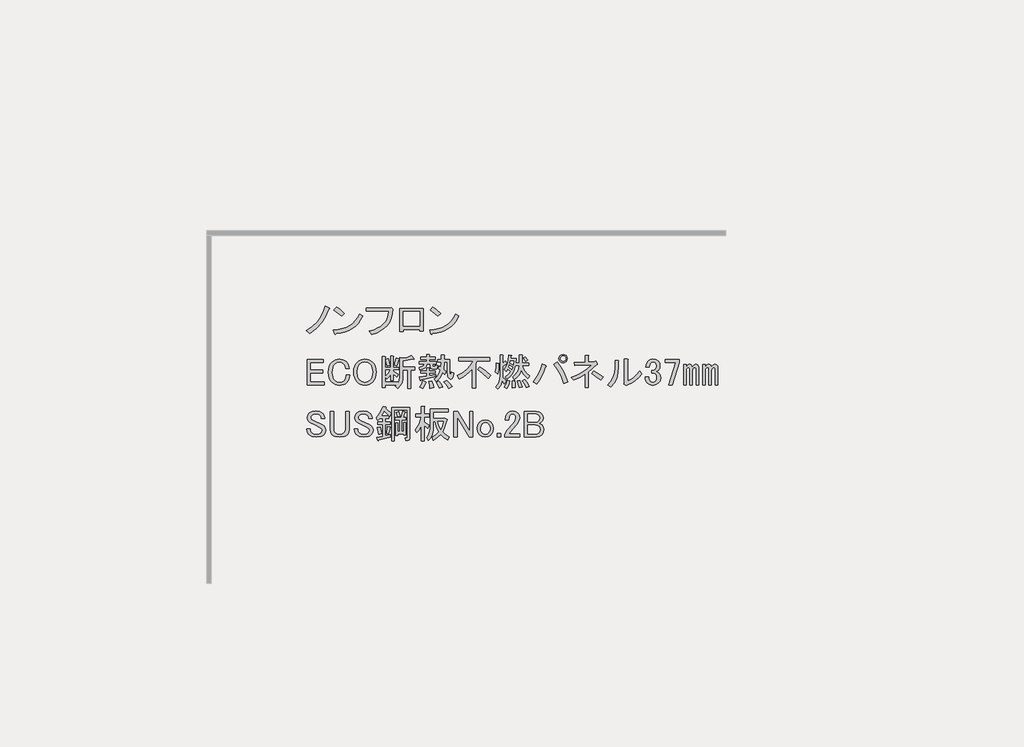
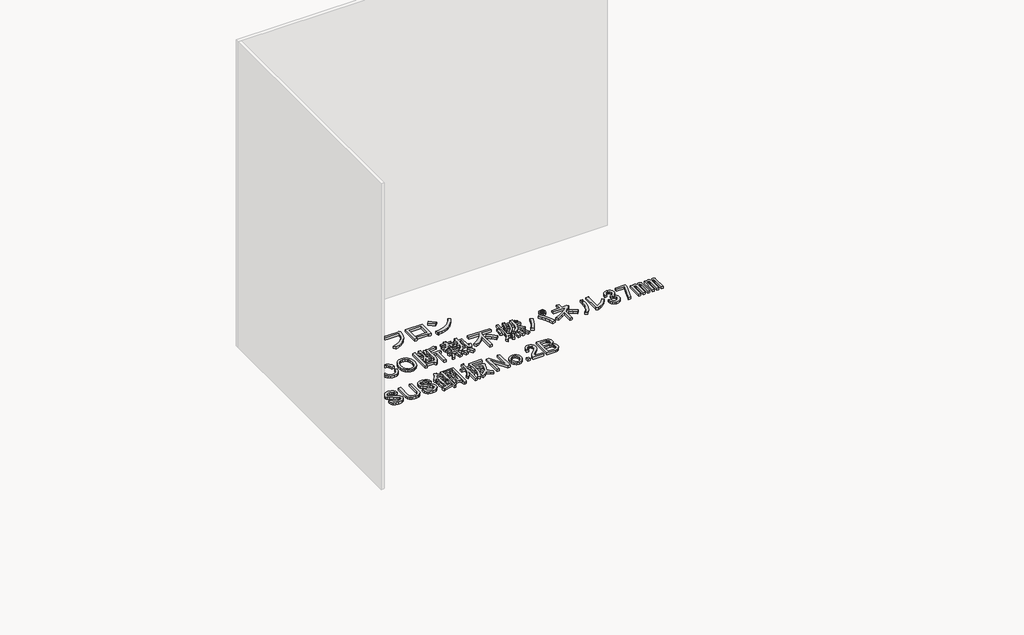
# One storey, part 105 of 117: 1 proxy.
"""IFC4 building model written with IfcOpenShell, lengths in millimetres."""

from ifc_helpers import new_model, si_unit, frame, origin, place, context, project, spatial, polyline, outline, extrude, element, save

model = new_model("IFC4")

# Units and contexts
model_context = context("Model", 3, world=origin())
ifc_project = project(units=[si_unit("LENGTHUNIT", "METRE", prefix="MILLI")], contexts=[model_context])

# Site, building, storey
site = spatial("IfcSite", under=ifc_project)
building = spatial("IfcBuilding", under=site)
storey = spatial("IfcBuildingStorey", under=building, Name="レベル 1", Elevation=500.0)

# Proxy
placement = place(None, origin())
element("IfcBuildingElementProxy", 1, Name="200㎜\u3000MS Pゴシック", ObjectType="200㎜\u3000MS Pゴシック", at=placement, inside=storey, context=model_context, shape_type="SweptSolid", body=[
    extrude(outline(polyline([(40940.1706985, 11396.4503118), (40914.5952502, 11336.6784775), (40886.146156, 11290.7001434), (40844.4782907, 11245.2965385), (40795.3389462, 11207.939142), (40767.7519457, 11229.7788507), (40815.4544673, 11260.2394971), (40855.1107805, 11298.7463519), (40872.4963381, 11322.6694538), (40887.8703435, 11350.7593423), (40901.2327969, 11383.0160173), (40912.5836981, 11419.4394788), (40943.6190736, 11405.6459786), (40946.7800841, 11401.0481452), (40940.1706985, 11396.4503118)])), frame((0.0, 0.0, 500.0), z_axis=(0.0, 0.0, 1.0), x_axis=(1.0, 0.0, 0.0)), (0.0, 0.0, 1.0), 25.0),
    extrude(outline(polyline([(41039.8977052, 11341.2763109), (40981.2753292, 11388.4041033), (41000.8161212, 11412.5427287), (41028.1157571, 11392.7145721), (41061.7374138, 11363.1160196), (41039.8977052, 11341.2763109)])), frame((0.0, 0.0, 500.0), z_axis=(0.0, 0.0, 1.0), x_axis=(1.0, 0.0, 0.0)), (0.0, 0.0, 1.0), 25.0),
    extrude(outline(polyline([(41201.9713328, 11341.2763109), (41185.447869, 11311.534076), (41166.3381239, 11285.5275808), (41144.6420975, 11263.2568252), (41120.3597898, 11244.7218093), (41093.4912008, 11229.922533), (41064.0363306, 11218.8589964), (41031.995179, 11211.5311994), (40997.3677461, 11207.939142), (40991.6204544, 11199.8929336), (40985.8731626, 11205.6402253), (40976.6774958, 11235.5261425), (41012.5082679, 11238.2022252), (41045.2857912, 11244.5062859), (41075.0100658, 11254.4383244), (41101.6810916, 11267.9983409), (41125.2988687, 11285.1863354), (41145.863397, 11306.0023077), (41163.3746766, 11330.446258), (41177.8327074, 11358.5181862), (41201.9713328, 11341.2763109)])), frame((0.0, 0.0, 500.0), z_axis=(0.0, 0.0, 1.0), x_axis=(1.0, 0.0, 0.0)), (0.0, 0.0, 1.0), 25.0),
    extrude(outline(polyline([(41252.7314136, 11226.3304757), (41286.514713, 11236.0110702), (41316.0234641, 11248.3857078), (41341.257667, 11263.4543884), (41362.2173217, 11281.217112), (41378.902428, 11301.6738786), (41391.3129862, 11324.8246882), (41399.4489961, 11350.6695409), (41403.3104577, 11379.2084365), (41230.8917049, 11379.2084365), (41230.8917049, 11404.4965202), (41405.6093744, 11404.4965202), (41421.7017914, 11407.9448953), (41434.3458332, 11396.4503118), (41430.825617, 11359.9550091), (41422.5638851, 11326.9080815), (41409.5606375, 11297.3095289), (41391.8158742, 11271.1593514), (41369.3295952, 11248.457549), (41342.1018005, 11229.2041216), (41310.1324901, 11213.3990692), (41273.421664, 11201.0423919), (41252.7314136, 11226.3304757)])), frame((0.0, 0.0, 500.0), z_axis=(0.0, 0.0, 1.0), x_axis=(1.0, 0.0, 0.0)), (0.0, 0.0, 1.0), 25.0),
    extrude(outline(polyline([(41667.455987, 11227.479934), (41641.0184449, 11227.479934), (41641.0184449, 11240.1239759), (41513.4285679, 11240.1239759), (41513.4285679, 11221.7326423), (41486.9910258, 11221.7326423), (41486.9910258, 11401.0481452), (41667.455987, 11401.0481452), (41667.455987, 11227.479934)]), holes=[polyline([(41513.4285679, 11375.7600614), (41513.4285679, 11265.4120596), (41641.0184449, 11265.4120596), (41641.0184449, 11375.7600614), (41513.4285679, 11375.7600614)])]), frame((0.0, 0.0, 500.0), z_axis=(0.0, 0.0, 1.0), x_axis=(1.0, 0.0, 0.0)), (0.0, 0.0, 1.0), 25.0),
    extrude(outline(polyline([(41943.5099049, 11341.2763109), (41926.9864411, 11311.534076), (41907.876696, 11285.5275808), (41886.1806696, 11263.2568252), (41861.8983619, 11244.7218093), (41835.0297729, 11229.922533), (41805.5749026, 11218.8589964), (41773.5337511, 11211.5311994), (41738.9063182, 11207.939142), (41733.1590264, 11199.8929336), (41727.4117347, 11205.6402253), (41718.2160679, 11235.5261425), (41754.0468399, 11238.2022252), (41786.8243633, 11244.5062859), (41816.5486378, 11254.4383244), (41843.2196637, 11267.9983409), (41866.8374407, 11285.1863354), (41887.4019691, 11306.0023077), (41904.9132486, 11330.446258), (41919.3712795, 11358.5181862), (41943.5099049, 11341.2763109)])), frame((0.0, 0.0, 500.0), z_axis=(0.0, 0.0, 1.0), x_axis=(1.0, 0.0, 0.0)), (0.0, 0.0, 1.0), 25.0),
    extrude(outline(polyline([(41781.4362772, 11341.2763109), (41722.8139013, 11388.4041033), (41742.3546933, 11412.5427287), (41769.6543291, 11392.7145721), (41803.2759859, 11363.1160196), (41781.4362772, 11341.2763109)])), frame((0.0, 0.0, 500.0), z_axis=(0.0, 0.0, 1.0), x_axis=(1.0, 0.0, 0.0)), (0.0, 0.0, 1.0), 25.0),
    extrude(outline(polyline([(40773.4992375, 11007.9448953), (40899.9396562, 11007.9448953), (40899.9396562, 10986.1051866), (40799.9367796, 10986.1051866), (40799.9367796, 10925.183894), (40893.0429061, 10925.183894), (40893.0429061, 10903.3441853), (40799.9367796, 10903.3441853), (40799.9367796, 10833.2272258), (40905.686948, 10833.2272258), (40905.686948, 10811.3875171), (40773.4992375, 10811.3875171), (40773.4992375, 11007.9448953)])), frame((0.0, 0.0, 500.0), z_axis=(0.0, 0.0, 1.0), x_axis=(1.0, 0.0, 0.0)), (0.0, 0.0, 1.0), 25.0),
    extrude(outline(polyline([(40937.7798252, 10909.091477), (40939.5758538, 10933.014579), (40944.9639399, 10954.2077173), (40953.9440832, 10972.6708921), (40966.516284, 10988.4041033), (40991.5170031, 11004.7838848), (41022.8397432, 11010.243812), (41053.5877541, 11005.358614), (41076.8642858, 10990.70302), (41092.6693381, 10967.1391238), (41098.7039944, 10937.8279358), (41071.116994, 10937.8279358), (41066.231796, 10959.0929153), (41056.1740354, 10974.6106031), (41040.9437123, 10984.9557283), (41022.8397432, 10988.4041033), (41003.2989512, 10984.3809991), (40986.0570759, 10972.3116864), (40977.0050914, 10960.6015794), (40970.5393882, 10946.1615089), (40965.3668256, 10909.091477), (40970.5393882, 10872.0214452), (40977.0050914, 10857.5813746), (40986.0570759, 10845.8712677), (41002.7242221, 10834.6640487), (41022.8397432, 10830.9283091), (41043.242629, 10834.0893196), (41058.4729521, 10843.572351), (41070.5422648, 10863.1131429), (41074.5653691, 10889.550685), (41102.1523695, 10889.550685), (41095.8303486, 10854.7795699), (41088.7899162, 10840.6268639), (41079.1632025, 10828.6293924), (41068.3151893, 10820.0802959), (41055.3119417, 10813.9737984), (41022.8397432, 10809.0886004), (40991.5170031, 10814.5485276), (40966.516284, 10830.9283091), (40953.9440832, 10846.5896791), (40944.9639399, 10864.8373305), (40939.5758538, 10885.6712631), (40937.7798252, 10909.091477)])), frame((0.0, 0.0, 500.0), z_axis=(0.0, 0.0, 1.0), x_axis=(1.0, 0.0, 0.0)), (0.0, 0.0, 1.0), 25.0),
    extrude(outline(polyline([(41133.1417667, 10910.2409354), (41134.8659542, 10933.0864201), (41140.0385168, 10953.3456236), (41148.6594544, 10971.0185457), (41160.7287671, 10986.1051866), (41173.4446501, 10996.6658352), (41187.4536738, 11004.2091557), (41202.7558381, 11008.7351479), (41219.3511431, 11010.243812), (41235.946448, 11008.7351479), (41251.2486123, 11004.2091557), (41265.257636, 10996.6658352), (41277.973519, 10986.1051866), (41290.0428317, 10971.0185457), (41298.6637694, 10953.3456236), (41303.836332, 10933.0864201), (41305.5605195, 10910.2409354), (41303.836332, 10887.3954506), (41298.6637694, 10867.1362472), (41290.0428317, 10849.463325), (41277.973519, 10834.3766841), (41265.257636, 10823.8160355), (41251.2486123, 10816.2727151), (41235.946448, 10811.7467228), (41219.3511431, 10810.2380587), (41202.7558381, 10811.7467228), (41187.4536738, 10816.2727151), (41173.4446501, 10823.8160355), (41160.7287671, 10834.3766841), (41148.6594544, 10849.463325), (41140.0385168, 10867.1362472), (41134.8659542, 10887.3954506), (41133.1417667, 10910.2409354)]), holes=[polyline([(41219.3511431, 10988.4041033), (41198.6608927, 10984.0936345), (41180.2695591, 10971.162228), (41171.7204626, 10960.0268502), (41165.6139651, 10946.1615089), (41160.7287671, 10910.2409354), (41165.6139651, 10874.3203619), (41171.7204626, 10860.4550205), (41180.2695591, 10849.3196427), (41198.6608927, 10836.3882363), (41219.3511431, 10832.0777674), (41240.0413934, 10836.3882363), (41258.432727, 10849.3196427), (41266.9818235, 10860.4550205), (41273.088321, 10874.3203619), (41277.973519, 10910.2409354), (41273.088321, 10946.1615089), (41266.9818235, 10960.0268502), (41258.432727, 10971.162228), (41240.0413934, 10984.0936345), (41219.3511431, 10988.4041033)])]), frame((0.0, 0.0, 500.0), z_axis=(0.0, 0.0, 1.0), x_axis=(1.0, 0.0, 0.0)), (0.0, 0.0, 1.0), 25.0),
    extrude(outline(polyline([(41444.3691101, 10964.2654779), (41461.6109854, 11017.1405621), (41482.3012357, 11011.3932704), (41484.0254232, 11008.2322599), (41480.002319, 11005.6459786), (41462.7604437, 10957.3687278), (41444.3691101, 10964.2654779)])), frame((0.0, 0.0, 500.0), z_axis=(0.0, 0.0, 1.0), x_axis=(1.0, 0.0, 0.0)), (0.0, 0.0, 1.0), 25.0),
    extrude(outline(polyline([(41598.3965292, 11012.5427287), (41596.6723417, 11007.9448953), (41589.2008624, 11010.243812), (41512.1871528, 10997.5997701), (41512.1871528, 10948.173061), (41604.143821, 10948.173061), (41604.143821, 10926.3333523), (41573.1084455, 10926.3333523), (41573.1084455, 10786.0994334), (41550.1192785, 10786.0994334), (41550.1192785, 10926.3333523), (41512.1871528, 10926.3333523), (41512.1871528, 10876.9066432), (41509.6008716, 10849.1041193), (41501.8420277, 10824.3189236), (41488.9106212, 10802.551056), (41470.8066522, 10783.8005167), (41453.5647769, 10803.3413086), (41463.9099021, 10812.5369755), (41374.2521506, 10812.5369755), (41374.2521506, 10790.6972668), (41351.2629836, 10790.6972668), (41351.2629836, 11029.784604), (41373.1026922, 11029.784604), (41377.9878902, 11027.4856873), (41374.2521506, 11022.8878539), (41374.2521506, 10947.0236026), (41416.7821096, 10947.0236026), (41416.7821096, 11034.3824374), (41435.1734433, 11034.3824374), (41440.0586413, 11032.0835207), (41436.3229016, 11027.4856873), (41436.3229016, 10947.0236026), (41480.002319, 10947.0236026), (41480.002319, 10928.632269), (41436.3229016, 10928.632269), (41436.3229016, 10919.4366022), (41476.5539439, 10892.9990601), (41462.7604437, 10871.1593514), (41436.3229016, 10897.5968935), (41436.3229016, 10844.7218093), (41416.7821096, 10844.7218093), (41416.7821096, 10892.9990601), (41403.5633386, 10873.1709035), (41389.1951092, 10857.3658512), (41376.5510673, 10875.7571848), (41398.390776, 10899.8958102), (41415.6326513, 10928.632269), (41374.2521506, 10928.632269), (41374.2521506, 10834.3766841), (41471.9561105, 10834.3766841), (41471.9561105, 10820.5831839), (41484.887517, 10844.7218093), (41489.1979858, 10878.0561015), (41489.1979858, 11022.8878539), (41511.0376945, 11017.1405621), (41547.2456326, 11024.6120414), (41577.7062789, 11037.8308125), (41598.3965292, 11012.5427287)])), frame((0.0, 0.0, 500.0), z_axis=(0.0, 0.0, 1.0), x_axis=(1.0, 0.0, 0.0)), (0.0, 0.0, 1.0), 25.0),
    extrude(outline(polyline([(41390.3445675, 10956.2192695), (41377.7005257, 11006.7954369), (41397.2413176, 11013.6921871), (41405.0001615, 10989.5535617), (41409.8853595, 10963.1160196), (41390.3445675, 10956.2192695)])), frame((0.0, 0.0, 500.0), z_axis=(0.0, 0.0, 1.0), x_axis=(1.0, 0.0, 0.0)), (0.0, 0.0, 1.0), 25.0),
    extrude(outline(polyline([(41734.0326148, 10840.1239759), (41744.0903754, 10812.82434), (41748.9755734, 10790.6972668), (41720.2391146, 10784.949975), (41717.6528333, 10806.5023191), (41709.8939894, 10836.6756008), (41734.0326148, 10840.1239759)])), frame((0.0, 0.0, 500.0), z_axis=(0.0, 0.0, 1.0), x_axis=(1.0, 0.0, 0.0)), (0.0, 0.0, 1.0), 25.0),
    extrude(outline(polyline([(41790.356074, 10787.2488917), (41782.022501, 10811.9622463), (41768.5163654, 10833.2272258), (41789.2066157, 10841.2734343), (41806.1611264, 10819.7210902), (41817.9430745, 10796.4445585), (41790.356074, 10787.2488917)])), frame((0.0, 0.0, 500.0), z_axis=(0.0, 0.0, 1.0), x_axis=(1.0, 0.0, 0.0)), (0.0, 0.0, 1.0), 25.0),
    extrude(outline(polyline([(41689.2037391, 10835.5261425), (41692.6521141, 10830.6409445), (41686.9048224, 10827.479934), (41677.1344264, 10801.9044857), (41666.214572, 10782.6510583), (41643.225405, 10794.1456418), (41655.8694469, 10817.709538), (41666.214572, 10844.7218093), (41689.2037391, 10835.5261425)])), frame((0.0, 0.0, 500.0), z_axis=(0.0, 0.0, 1.0), x_axis=(1.0, 0.0, 0.0)), (0.0, 0.0, 1.0), 25.0),
    extrude(outline(polyline([(41721.3885729, 10972.3116864), (41696.1004892, 10972.3116864), (41691.5026558, 10954.8542877), (41681.1575306, 10941.5636755), (41665.0651137, 10932.4398498), (41643.225405, 10927.4828107), (41638.6275716, 10947.0236026), (41663.9156553, 10955.6445403), (41671.3871346, 10962.9723373), (41675.4102388, 10972.3116864), (41639.7770299, 10972.3116864), (41639.7770299, 10990.70302), (41693.8015725, 10990.70302), (41693.8015725, 11007.9448953), (41650.1221551, 11007.9448953), (41650.1221551, 11026.3362289), (41693.8015725, 11026.3362289), (41693.8015725, 11044.7275626), (41715.6412812, 11044.7275626), (41720.5264792, 11042.4286459), (41716.7907395, 11037.8308125), (41716.7907395, 11026.3362289), (41759.3206985, 11026.3362289), (41759.3206985, 11007.9448953), (41716.7907395, 11007.9448953), (41716.7907395, 10990.70302), (41769.6658237, 10990.70302), (41769.6658237, 10972.3116864), (41740.9293649, 10972.3116864), (41740.9293649, 10959.6676445), (41742.3661878, 10954.4950819), (41746.6766567, 10952.7708944), (41757.0217818, 10952.7708944), (41760.7575215, 10955.9319049), (41760.4701569, 10965.4149363), (41780.0109489, 10963.1160196), (41777.137303, 10941.5636755), (41771.8210581, 10936.1755894), (41763.9185319, 10934.3795608), (41739.7799066, 10934.3795608), (41725.9864063, 10939.2647588), (41721.3885729, 10953.9203528), (41721.3885729, 10972.3116864)])), frame((0.0, 0.0, 500.0), z_axis=(0.0, 0.0, 1.0), x_axis=(1.0, 0.0, 0.0)), (0.0, 0.0, 1.0), 25.0),
    extrude(outline(polyline([(41852.4268251, 10989.5535617), (41830.5871164, 10989.5535617), (41825.989283, 10932.0806441), (41845.5300749, 10913.6893104), (41835.1849498, 10891.8496017), (41819.0925328, 10907.9420187), (41799.8391054, 10870.2972576), (41769.6658237, 10837.8250592), (41752.4239484, 10858.5153095), (41767.5105893, 10870.4409399), (41780.585678, 10885.5275808), (41791.6492147, 10903.7752321), (41800.7011992, 10925.183894), (41783.4593239, 10940.1268525), (41791.5055324, 10957.3687278), (41805.2990326, 10947.0236026), (41807.5979493, 10989.5535617), (41780.0109489, 10989.5535617), (41780.0109489, 11007.9448953), (41807.5979493, 11007.9448953), (41807.5979493, 11042.4286459), (41829.437658, 11042.4286459), (41834.322856, 11040.1297292), (41830.5871164, 11035.5318957), (41830.5871164, 11007.9448953), (41871.967617, 11007.9448953), (41871.967617, 10911.3903937), (41875.4159921, 10887.2517683), (41878.6488437, 10885.2402162), (41881.4506484, 10888.4012267), (41885.7611173, 10910.2409354), (41905.3019092, 10903.3441853), (41900.775917, 10876.5474374), (41892.945232, 10860.5268616), (41881.8098542, 10855.2824579), (41867.3697836, 10860.8142262), (41860.8322393, 10868.1420232), (41856.1625647, 10879.780289), (41852.4268251, 10915.9882271), (41852.4268251, 10989.5535617)])), frame((0.0, 0.0, 500.0), z_axis=(0.0, 0.0, 1.0), x_axis=(1.0, 0.0, 0.0)), (0.0, 0.0, 1.0), 25.0),
    extrude(outline(polyline([(41651.2716134, 10850.4691011), (41649.2600613, 10845.5839031), (41645.5243217, 10847.020726), (41639.7770299, 10871.1593514), (41694.9510308, 10879.2055599), (41694.9510308, 10902.1947269), (41651.2716134, 10902.1947269), (41651.2716134, 10920.5860605), (41694.9510308, 10920.5860605), (41694.9510308, 10943.5752276), (41713.3423645, 10943.5752276), (41718.2275625, 10941.2763109), (41714.4918228, 10936.6784775), (41714.4918228, 10920.5860605), (41759.3206985, 10920.5860605), (41759.3206985, 10902.1947269), (41714.4918228, 10902.1947269), (41714.4918228, 10882.6539349), (41765.0679903, 10891.8496017), (41765.0679903, 10875.7571848), (41651.2716134, 10850.4691011)])), frame((0.0, 0.0, 500.0), z_axis=(0.0, 0.0, 1.0), x_axis=(1.0, 0.0, 0.0)), (0.0, 0.0, 1.0), 25.0),
    extrude(outline(polyline([(41848.97845, 10845.8712677), (41873.6918046, 10824.6062881), (41892.6578674, 10799.8929336), (41866.2203253, 10784.949975), (41846.9668979, 10814.5485276), (41828.2881997, 10834.3766841), (41848.97845, 10845.8712677)])), frame((0.0, 0.0, 500.0), z_axis=(0.0, 0.0, 1.0), x_axis=(1.0, 0.0, 0.0)), (0.0, 0.0, 1.0), 25.0),
    extrude(outline(polyline([(42167.3784135, 10861.9636846), (42128.2968295, 10900.1831748), (42086.9163289, 10929.7817274), (42103.0087458, 10950.4719777), (42146.6881632, 10922.3102481), (42188.0686638, 10883.8033933), (42167.3784135, 10861.9636846)])), frame((0.0, 0.0, 500.0), z_axis=(0.0, 0.0, 1.0), x_axis=(1.0, 0.0, 0.0)), (0.0, 0.0, 1.0), 25.0),
    extrude(outline(polyline([(41940.9351182, 11022.8878539), (42182.3213721, 11022.8878539), (42182.3213721, 10997.5997701), (42082.3184955, 10997.5997701), (42071.9733703, 10973.4611447), (42071.9733703, 10787.2488917), (42045.5358282, 10787.2488917), (42045.5358282, 10934.3795608), (42024.7018956, 10911.1030291), (42001.2816816, 10890.7001434), (41975.2751864, 10873.1709035), (41946.6824099, 10858.5153095), (41930.589993, 10884.9528516), (41970.174465, 10905.3557374), (42003.8679629, 10930.9311857), (42031.6704868, 10961.6791966), (42053.5820367, 10997.5997701), (41940.9351182, 10997.5997701), (41940.9351182, 11022.8878539)])), frame((0.0, 0.0, 500.0), z_axis=(0.0, 0.0, 1.0), x_axis=(1.0, 0.0, 0.0)), (0.0, 0.0, 1.0), 25.0),
    extrude(outline(polyline([(42354.7401249, 10788.3983501), (42355.3148541, 10815.4106213), (42352.4412082, 10843.572351), (42371.9820002, 10844.7218093), (42378.3040211, 10818.5716318), (42378.8787503, 10790.6972668), (42354.7401249, 10788.3983501)])), frame((0.0, 0.0, 500.0), z_axis=(0.0, 0.0, 1.0), x_axis=(1.0, 0.0, 0.0)), (0.0, 0.0, 1.0), 25.0),
    extrude(outline(polyline([(42335.1993329, 10840.1239759), (42326.5783953, 10809.6633296), (42312.2101659, 10782.6510583), (42292.6693739, 10795.2951002), (42306.7502387, 10820.0084547), (42316.8079993, 10848.1701844), (42335.1993329, 10840.1239759)])), frame((0.0, 0.0, 500.0), z_axis=(0.0, 0.0, 1.0), x_axis=(1.0, 0.0, 0.0)), (0.0, 0.0, 1.0), 25.0),
    extrude(outline(polyline([(42250.1394149, 10978.0589781), (42254.7372483, 10975.7600614), (42250.1394149, 10971.162228), (42248.9899565, 10931.5059149), (42243.2426647, 10897.5968935), (42224.8513311, 10910.2409354), (42230.5986229, 10944.7246859), (42231.7480812, 10981.5073532), (42250.1394149, 10978.0589781)])), frame((0.0, 0.0, 500.0), z_axis=(0.0, 0.0, 1.0), x_axis=(1.0, 0.0, 0.0)), (0.0, 0.0, 1.0), 25.0),
    extrude(outline(polyline([(42301.8650407, 10996.4503118), (42311.0607075, 10979.2084365), (42312.4975305, 10973.1737801), (42307.6123325, 10973.4611447), (42281.1747904, 10952.7708944), (42281.1747904, 10868.8604347), (42294.9682906, 10856.5037574), (42306.4628741, 10840.1239759), (42293.8188322, 10819.4337256), (42275.4274986, 10844.7218093), (42263.6455505, 10808.8012358), (42242.0932064, 10779.2026832), (42227.1502478, 10797.5940169), (42242.2368887, 10816.3445562), (42253.0130607, 10836.9629654), (42259.478764, 10859.4492444), (42261.6339984, 10883.8033933), (42261.6339984, 11041.2791875), (42280.025332, 11041.2791875), (42284.91053, 11038.9802708), (42281.1747904, 11034.3824374), (42281.1747904, 10975.7600614), (42301.8650407, 10996.4503118)])), frame((0.0, 0.0, 500.0), z_axis=(0.0, 0.0, 1.0), x_axis=(1.0, 0.0, 0.0)), (0.0, 0.0, 1.0), 25.0),
    extrude(outline(polyline([(42452.4440848, 11027.4856873), (42474.2837935, 11003.3470619), (42457.0419182, 10991.8524784), (42450.4325327, 11003.3470619), (42437.5011262, 11017.1405621), (42452.4440848, 11027.4856873)])), frame((0.0, 0.0, 500.0), z_axis=(0.0, 0.0, 1.0), x_axis=(1.0, 0.0, 0.0)), (0.0, 0.0, 1.0), 25.0),
    extrude(outline(polyline([(42462.78921, 10790.6972668), (42449.5704389, 10818.8589964), (42432.9032928, 10843.572351), (42451.2946265, 10851.6185594), (42470.2606893, 10828.6293924), (42485.778377, 10801.0423919), (42462.78921, 10790.6972668)])), frame((0.0, 0.0, 500.0), z_axis=(0.0, 0.0, 1.0), x_axis=(1.0, 0.0, 0.0)), (0.0, 0.0, 1.0), 25.0),
    extrude(outline(polyline([(42413.3625008, 10845.8712677), (42431.7538345, 10796.4445585), (42407.6152091, 10791.8467251), (42393.8217089, 10842.4228926), (42413.3625008, 10845.8712677)])), frame((0.0, 0.0, 500.0), z_axis=(0.0, 0.0, 1.0), x_axis=(1.0, 0.0, 0.0)), (0.0, 0.0, 1.0), 25.0),
    extrude(outline(polyline([(42474.2837935, 10860.8142262), (42443.5357826, 10891.2748726), (42422.5581677, 10925.183894), (42414.1527535, 10903.0568207), (42402.7300111, 10883.8033933), (42388.2899405, 10867.4236118), (42370.8325418, 10853.9174761), (42357.0390416, 10872.3088098), (42377.8729742, 10891.2030314), (42393.2469797, 10912.2524875), (42403.161058, 10935.457178), (42407.6152091, 10960.8171029), (42378.8787503, 10960.8171029), (42370.904383, 10930.2127742), (42357.3264062, 10902.7694561), (42338.1448199, 10878.4871484), (42313.3596242, 10857.3658512), (42300.7155823, 10873.4582681), (42326.5783953, 10895.0106122), (42342.096083, 10915.9882271), (42320.2563743, 10935.5290191), (42306.4628741, 10914.8387688), (42292.6693739, 10929.7817274), (42305.0978923, 10948.8196313), (42314.7964472, 10973.7485093), (42321.7650384, 11004.5683614), (42326.0036661, 11041.2791875), (42346.6939164, 11038.9802708), (42350.1422915, 11036.3939895), (42344.3949997, 11033.232979), (42342.096083, 11014.8416454), (42385.7755004, 11014.8416454), (42382.3271253, 10979.2084365), (42407.6152091, 10979.2084365), (42407.6152091, 11041.2791875), (42429.4549178, 11041.2791875), (42434.3401158, 11038.9802708), (42430.6043761, 11034.3824374), (42430.6043761, 10979.2084365), (42480.0310853, 10979.2084365), (42480.0310853, 10960.8171029), (42430.6043761, 10960.8171029), (42437.1419205, 10939.0492353), (42448.7083452, 10918.5745084), (42465.3036501, 10899.3929222), (42486.9278354, 10881.5044766), (42474.2837935, 10860.8142262)]), holes=[polyline([(42350.1422915, 10930.9311857), (42357.0390416, 10950.4719777), (42331.7509579, 10966.5643946), (42326.0036661, 10949.3225193), (42350.1422915, 10930.9311857)]), polyline([(42339.7971663, 10996.4503118), (42336.3487913, 10980.3578948), (42361.636875, 10966.5643946), (42366.2347084, 10996.4503118), (42339.7971663, 10996.4503118)])]), frame((0.0, 0.0, 500.0), z_axis=(0.0, 0.0, 1.0), x_axis=(1.0, 0.0, 0.0)), (0.0, 0.0, 1.0), 25.0),
    extrude(outline(polyline([(42699.5776305, 10987.254645), (42726.230696, 10950.5438188), (42748.7169751, 10912.8272167), (42767.0364675, 10874.1048384), (42781.1891735, 10834.3766841), (42750.153798, 10824.031559), (42734.7079514, 10867.1362472), (42717.1068704, 10905.643102), (42697.350555, 10939.5521234), (42675.4390051, 10968.8633113), (42699.5776305, 10987.254645)])), frame((0.0, 0.0, 500.0), z_axis=(0.0, 0.0, 1.0), x_axis=(1.0, 0.0, 0.0)), (0.0, 0.0, 1.0), 25.0),
    extrude(outline(polyline([(42612.2187958, 10960.8171029), (42616.2419, 10955.3571757), (42609.919879, 10950.4719777), (42597.9942486, 10915.0542922), (42582.9076078, 10881.217112), (42564.6599564, 10848.960437), (42543.2512946, 10818.2842672), (42516.8137525, 10835.5261425), (42540.018443, 10866.9925649), (42559.056347, 10900.4705394), (42573.9274644, 10935.960066), (42584.6317953, 10973.4611447), (42612.2187958, 10960.8171029)])), frame((0.0, 0.0, 500.0), z_axis=(0.0, 0.0, 1.0), x_axis=(1.0, 0.0, 0.0)), (0.0, 0.0, 1.0), 25.0),
    extrude(outline(polyline([(42745.5559646, 10981.5073532), (42732.9119227, 10983.8062699), (42722.5667975, 10990.70302), (42715.6700474, 11001.0481452), (42713.3711307, 11013.6921871), (42715.6700474, 11026.3362289), (42722.5667975, 11036.6813541), (42732.9119227, 11043.5781042), (42745.5559646, 11045.8770209), (42758.2000065, 11043.5781042), (42768.5451316, 11036.6813541), (42775.4418817, 11026.3362289), (42777.7407984, 11013.6921871), (42775.4418817, 11001.0481452), (42768.5451316, 10990.70302), (42758.2000065, 10983.8062699), (42745.5559646, 10981.5073532)]), holes=[polyline([(42745.5559646, 10993.0019367), (42753.8895376, 10994.4387597), (42760.4989232, 10998.7492285), (42764.809392, 11005.358614), (42766.2462149, 11013.6921871), (42764.809392, 11022.0257601), (42760.4989232, 11028.6351456), (42753.8895376, 11032.9456145), (42745.5559646, 11034.3824374), (42737.2223915, 11032.9456145), (42730.613006, 11028.6351456), (42726.3025372, 11022.0257601), (42724.8657143, 11013.6921871), (42726.3025372, 11005.358614), (42730.613006, 10998.7492285), (42737.2223915, 10994.4387597), (42745.5559646, 10993.0019367)])]), frame((0.0, 0.0, 500.0), z_axis=(0.0, 0.0, 1.0), x_axis=(1.0, 0.0, 0.0)), (0.0, 0.0, 1.0), 25.0),
    extrude(outline(polyline([(42989.2411352, 10991.8524784), (42996.1378853, 10994.1513951), (43008.7819272, 10976.9095198), (43009.9313856, 10970.8748634), (43004.1840938, 10968.8633113), (42940.9638844, 10912.5398521), (42940.9638844, 10791.8467251), (42914.5263423, 10791.8467251), (42914.5263423, 10894.1485184), (42874.2953, 10870.0098931), (42829.4664243, 10848.1701844), (42809.9256323, 10868.8604347), (42855.4729195, 10888.3293855), (42896.7097379, 10911.1030291), (42933.6360874, 10937.1813655), (42966.2519682, 10966.5643946), (42836.3631744, 10960.8171029), (42832.9147993, 10986.1051866), (42914.5263423, 10988.4041033), (42914.5263423, 11040.1297292), (42937.5155094, 11040.1297292), (42943.5501657, 11036.6813541), (42940.9638844, 11030.9340623), (42940.9638844, 10989.5535617), (42989.2411352, 10991.8524784)])), frame((0.0, 0.0, 500.0), z_axis=(0.0, 0.0, 1.0), x_axis=(1.0, 0.0, 0.0)), (0.0, 0.0, 1.0), 25.0),
    extrude(outline(polyline([(43035.2194693, 10848.1701844), (42998.1494375, 10877.4813723), (42965.1025098, 10898.7463519), (42982.3443851, 10920.5860605), (43021.1386045, 10897.3095289), (43054.7602613, 10871.1593514), (43035.2194693, 10848.1701844)])), frame((0.0, 0.0, 500.0), z_axis=(0.0, 0.0, 1.0), x_axis=(1.0, 0.0, 0.0)), (0.0, 0.0, 1.0), 25.0),
    extrude(outline(polyline([(43242.2139293, 10841.2734343), (43266.9991251, 10853.4864292), (43290.7785447, 10870.5846222), (43313.5521883, 10892.5680132), (43335.3200559, 10919.4366022), (43351.4124728, 10897.5968935), (43328.1359412, 10869.7943696), (43301.9857636, 10846.1586322), (43272.9619403, 10826.6896814), (43241.064471, 10811.3875171), (43231.8688042, 10806.7896837), (43213.4774705, 10820.5831839), (43215.7763872, 10826.3304757), (43215.7763872, 11011.3932704), (43239.9150126, 11011.3932704), (43245.6623044, 11007.9448953), (43242.2139293, 11002.1976035), (43242.2139293, 10841.2734343)])), frame((0.0, 0.0, 500.0), z_axis=(0.0, 0.0, 1.0), x_axis=(1.0, 0.0, 0.0)), (0.0, 0.0, 1.0), 25.0),
    extrude(outline(polyline([(43088.1865102, 10810.2380587), (43113.3309116, 10839.4774056), (43131.2911984, 10872.0214452), (43142.0673704, 10907.8701775), (43145.6594278, 10947.0236026), (43145.6594278, 10998.7492285), (43169.7980532, 10998.7492285), (43175.5453449, 10995.3008534), (43172.0969699, 10989.5535617), (43172.0969699, 10948.173061), (43168.2893891, 10902.4102504), (43156.8666467, 10861.67632), (43137.8287427, 10825.9712699), (43111.1756772, 10795.2951002), (43088.1865102, 10810.2380587)])), frame((0.0, 0.0, 500.0), z_axis=(0.0, 0.0, 1.0), x_axis=(1.0, 0.0, 0.0)), (0.0, 0.0, 1.0), 25.0),
    extrude(outline(polyline([(43383.5973066, 10951.621436), (43387.9077755, 10975.7600614), (43400.8391819, 10995.3008534), (43417.506328, 11006.5080724), (43437.6218492, 11010.243812), (43460.3236516, 11006.5080724), (43477.8528915, 10995.3008534), (43488.1980167, 10979.2084365), (43491.6463917, 10958.5181862), (43488.7727459, 10938.402665), (43480.1518082, 10924.0344356), (43471.8182352, 10917.7124147), (43462.9099329, 10914.8387688), (43482.4507249, 10903.3441853), (43492.7958501, 10887.2517683), (43496.2442251, 10866.561518), (43492.2211209, 10843.572351), (43480.1518082, 10825.1810173), (43460.8983808, 10813.1117046), (43435.3229325, 10809.0886004), (43413.1958592, 10813.1117046), (43395.0918902, 10825.1810173), (43383.0225775, 10842.7102572), (43378.9994732, 10863.1131429), (43378.9994732, 10872.3088098), (43405.4370153, 10872.3088098), (43405.4370153, 10864.2626013), (43408.0232966, 10850.4691011), (43415.7821405, 10838.9745175), (43424.6904427, 10832.9398612), (43435.3229325, 10830.9283091), (43448.8290681, 10833.2272258), (43459.4615579, 10840.1239759), (43466.358308, 10851.905924), (43468.6572247, 10868.8604347), (43466.358308, 10883.2286641), (43459.4615579, 10894.1485184), (43449.6911619, 10901.0452686), (43438.7713075, 10903.3441853), (43429.5756407, 10903.3441853), (43429.5756407, 10922.8849772), (43436.4723908, 10922.8849772), (43446.5301514, 10925.183894), (43456.0131828, 10932.0806441), (43462.9099329, 10943.287863), (43465.2088496, 10958.5181862), (43462.9099329, 10972.0243218), (43456.0131828, 10982.6568116), (43447.9669744, 10987.8293741), (43437.6218492, 10989.5535617), (43427.8514532, 10987.5420095), (43419.2305156, 10981.5073532), (43412.0464009, 10969.4380405), (43408.8853904, 10951.621436), (43383.5973066, 10951.621436)])), frame((0.0, 0.0, 500.0), z_axis=(0.0, 0.0, 1.0), x_axis=(1.0, 0.0, 0.0)), (0.0, 0.0, 1.0), 25.0),
    extrude(outline(polyline([(43530.7279757, 11007.9448953), (43639.9265191, 11007.9448953), (43639.9265191, 10982.6568116), (43584.7525182, 10811.3875171), (43559.4644345, 10811.3875171), (43614.6384354, 10986.1051866), (43530.7279757, 10986.1051866), (43530.7279757, 11007.9448953)])), frame((0.0, 0.0, 500.0), z_axis=(0.0, 0.0, 1.0), x_axis=(1.0, 0.0, 0.0)), (0.0, 0.0, 1.0), 25.0),
    extrude(outline(polyline([(43692.8016033, 10810.2380587), (43673.2608114, 10810.2380587), (43673.2608114, 10967.713853), (43692.8016033, 10967.713853), (43692.8016033, 10950.4719777), (43704.870916, 10965.9896654), (43718.0896871, 10971.162228), (43727.2853539, 10969.7254051), (43734.182104, 10965.4149363), (43741.0788541, 10951.621436), (43754.0102606, 10966.27703), (43767.5163962, 10971.162228), (43775.8499693, 10969.7254051), (43782.4593548, 10965.4149363), (43787.6319174, 10956.7939986), (43789.3561049, 10944.7246859), (43789.3561049, 10810.2380587), (43769.8153129, 10810.2380587), (43769.8153129, 10934.3795608), (43767.2290316, 10943.8625922), (43759.4701878, 10947.0236026), (43749.1250626, 10942.4257692), (43743.0904062, 10933.8048316), (43741.0788541, 10924.0344356), (43741.0788541, 10810.2380587), (43721.5380621, 10810.2380587), (43721.5380621, 10934.3795608), (43718.9517808, 10943.8625922), (43711.192937, 10947.0236026), (43700.8478118, 10942.4257692), (43694.8131555, 10933.8048316), (43692.8016033, 10924.0344356), (43692.8016033, 10810.2380587)])), frame((0.0, 0.0, 500.0), z_axis=(0.0, 0.0, 1.0), x_axis=(1.0, 0.0, 0.0)), (0.0, 0.0, 1.0), 25.0),
    extrude(outline(polyline([(43914.6470653, 10971.162228), (43922.9806383, 10969.7254051), (43929.5900239, 10965.4149363), (43934.7625864, 10956.7939986), (43936.486774, 10944.7246859), (43936.486774, 10810.2380587), (43916.945982, 10810.2380587), (43916.945982, 10934.3795608), (43914.3597007, 10943.8625922), (43906.6008568, 10947.0236026), (43896.2557317, 10942.4257692), (43890.2210753, 10933.8048316), (43888.2095232, 10924.0344356), (43888.2095232, 10810.2380587), (43868.6687312, 10810.2380587), (43868.6687312, 10934.3795608), (43866.0824499, 10943.8625922), (43858.323606, 10947.0236026), (43847.9784809, 10942.4257692), (43841.9438245, 10933.8048316), (43839.9322724, 10924.0344356), (43839.9322724, 10810.2380587), (43820.3914804, 10810.2380587), (43820.3914804, 10967.713853), (43839.9322724, 10967.713853), (43839.9322724, 10950.4719777), (43852.0015851, 10965.9896654), (43865.2203561, 10971.162228), (43874.416023, 10969.7254051), (43881.3127731, 10965.4149363), (43888.2095232, 10951.621436), (43901.1409296, 10966.27703), (43914.6470653, 10971.162228)])), frame((0.0, 0.0, 500.0), z_axis=(0.0, 0.0, 1.0), x_axis=(1.0, 0.0, 0.0)), (0.0, 0.0, 1.0), 25.0),
    extrude(outline(polyline([(40775.7981542, 10556.2192695), (40779.8212584, 10576.6221552), (40791.8905711, 10594.1513951), (40812.2934569, 10606.2207078), (40841.3172803, 10610.243812), (40872.6400204, 10605.6459786), (40895.3418228, 10591.8524784), (40907.4111355, 10574.3232385), (40911.4342397, 10553.9203528), (40884.9966976, 10553.9203528), (40882.6977809, 10566.5643946), (40875.8010308, 10576.9095198), (40862.5822598, 10584.6683637), (40843.616197, 10587.254645), (40823.2133112, 10584.9557283), (40810.2819048, 10578.0589781), (40804.2472484, 10569.4380405), (40802.2356963, 10559.6676445), (40806.8335297, 10544.7246859), (40827.52378, 10533.2301024), (40887.2956143, 10506.7925603), (40904.5374896, 10495.2979768), (40914.020521, 10481.5044766), (40917.1815315, 10465.4120596), (40913.1584273, 10444.1470801), (40901.0891146, 10426.3304757), (40891.1031951, 10418.7871552), (40878.3873121, 10413.3990692), (40844.7656553, 10409.0886004), (40811.1439985, 10414.261163), (40797.5660217, 10420.7268662), (40786.1432794, 10429.7788507), (40774.9360604, 10448.1701844), (40771.2003208, 10473.4582681), (40797.6378629, 10473.4582681), (40799.9367796, 10455.6416637), (40806.8335297, 10443.572351), (40822.9259466, 10434.0893196), (40845.9151137, 10430.9283091), (40866.8927286, 10433.801955), (40881.5483226, 10442.4228926), (40888.4450727, 10451.6185594), (40890.7439894, 10460.8142262), (40889.0198019, 10470.2972576), (40883.8472393, 10478.0561015), (40865.4559057, 10489.550685), (40835.5699885, 10503.3441853), (40802.2356963, 10518.2871438), (40786.1432794, 10528.632269), (40778.3844355, 10540.7015817), (40775.7981542, 10556.2192695)])), frame((0.0, 0.0, 500.0), z_axis=(0.0, 0.0, 1.0), x_axis=(1.0, 0.0, 0.0)), (0.0, 0.0, 1.0), 25.0),
    extrude(outline(polyline([(40951.2054987, 10607.9448953), (40977.6430408, 10607.9448953), (40977.6430408, 10470.0098931), (40980.2293221, 10455.3542991), (40987.988166, 10443.572351), (41003.5058537, 10434.0893196), (41024.7708332, 10430.9283091), (41046.0358128, 10434.0893196), (41061.5535005, 10443.572351), (41069.3123444, 10455.3542991), (41071.8986257, 10470.0098931), (41071.8986257, 10607.9448953), (41098.3361678, 10607.9448953), (41098.3361678, 10468.8604347), (41094.3130635, 10445.8712677), (41082.2437508, 10427.479934), (41071.7549434, 10419.4337256), (41058.6798546, 10413.6864338), (41024.7708332, 10409.0886004), (40990.8618119, 10413.6864338), (40977.7867231, 10419.4337256), (40967.2979156, 10427.479934), (40955.2286029, 10445.8712677), (40951.2054987, 10468.8604347), (40951.2054987, 10607.9448953)])), frame((0.0, 0.0, 500.0), z_axis=(0.0, 0.0, 1.0), x_axis=(1.0, 0.0, 0.0)), (0.0, 0.0, 1.0), 25.0),
    extrude(outline(polyline([(41140.6822135, 10556.2192695), (41144.7053177, 10576.6221552), (41156.7746304, 10594.1513951), (41177.1775161, 10606.2207078), (41206.2013395, 10610.243812), (41237.5240796, 10605.6459786), (41260.2258821, 10591.8524784), (41272.2951948, 10574.3232385), (41276.318299, 10553.9203528), (41249.8807569, 10553.9203528), (41247.5818402, 10566.5643946), (41240.6850901, 10576.9095198), (41227.466319, 10584.6683637), (41208.5002562, 10587.254645), (41188.0973705, 10584.9557283), (41175.165964, 10578.0589781), (41169.1313077, 10569.4380405), (41167.1197556, 10559.6676445), (41171.717589, 10544.7246859), (41192.4078393, 10533.2301024), (41252.1796736, 10506.7925603), (41269.4215489, 10495.2979768), (41278.9045803, 10481.5044766), (41282.0655908, 10465.4120596), (41278.0424865, 10444.1470801), (41265.9731738, 10426.3304757), (41255.9872544, 10418.7871552), (41243.2713714, 10413.3990692), (41209.6497146, 10409.0886004), (41176.0280578, 10414.261163), (41162.450081, 10420.7268662), (41151.0273386, 10429.7788507), (41139.8201197, 10448.1701844), (41136.0843801, 10473.4582681), (41162.5219222, 10473.4582681), (41164.8208389, 10455.6416637), (41171.717589, 10443.572351), (41187.8100059, 10434.0893196), (41210.7991729, 10430.9283091), (41231.7767879, 10433.801955), (41246.4323819, 10442.4228926), (41253.329132, 10451.6185594), (41255.6280487, 10460.8142262), (41253.9038611, 10470.2972576), (41248.7312986, 10478.0561015), (41230.3399649, 10489.550685), (41200.4540478, 10503.3441853), (41167.1197556, 10518.2871438), (41151.0273386, 10528.632269), (41143.2684948, 10540.7015817), (41140.6822135, 10556.2192695)])), frame((0.0, 0.0, 500.0), z_axis=(0.0, 0.0, 1.0), x_axis=(1.0, 0.0, 0.0)), (0.0, 0.0, 1.0), 25.0),
    extrude(outline(polyline([(41410.3451429, 10568.8633113), (41368.9646422, 10612.5427287), (41347.1249335, 10573.4611447), (41402.2989344, 10573.4611447), (41402.2989344, 10555.0698111), (41375.8613923, 10555.0698111), (41375.8613923, 10526.3333523), (41413.7935179, 10526.3333523), (41413.7935179, 10507.9420187), (41375.8613923, 10507.9420187), (41375.8613923, 10420.5831839), (41414.9429763, 10430.9283091), (41417.241893, 10411.3875171), (41325.2852248, 10386.0994334), (41322.9863081, 10380.3521416), (41318.3884747, 10383.8005167), (41311.4917246, 10406.7896837), (41356.3206003, 10415.9853505), (41356.3206003, 10507.9420187), (41318.3884747, 10507.9420187), (41318.3884747, 10526.3333523), (41356.3206003, 10526.3333523), (41356.3206003, 10555.0698111), (41334.4808916, 10555.0698111), (41319.537933, 10536.6784775), (41306.8938912, 10557.3687278), (41335.0556208, 10595.0134888), (41359.7689754, 10645.8770209), (41381.6086841, 10640.1297292), (41385.0570591, 10636.3939895), (41379.3097674, 10634.3824374), (41378.160309, 10630.9340623), (41422.9891847, 10593.0019367), (41410.3451429, 10568.8633113)])), frame((0.0, 0.0, 500.0), z_axis=(0.0, 0.0, 1.0), x_axis=(1.0, 0.0, 0.0)), (0.0, 0.0, 1.0), 25.0),
    extrude(outline(polyline([(41478.1631856, 10605.6459786), (41485.3473003, 10590.4156554), (41490.8072275, 10570.0127697), (41473.5653522, 10564.2654779), (41462.0707687, 10601.0481452), (41478.1631856, 10605.6459786)])), frame((0.0, 0.0, 500.0), z_axis=(0.0, 0.0, 1.0), x_axis=(1.0, 0.0, 0.0)), (0.0, 0.0, 1.0), 25.0),
    extrude(outline(polyline([(41531.0382698, 10604.4965202), (41533.6245511, 10601.0481452), (41527.5898948, 10597.5997701), (41514.9458529, 10559.6676445), (41535.6361032, 10559.6676445), (41535.6361032, 10541.2763109), (41504.6007277, 10541.2763109), (41504.6007277, 10452.7680178), (41519.5436863, 10452.7680178), (41519.5436863, 10520.5860605), (41535.6361032, 10520.5860605), (41535.6361032, 10426.3304757), (41519.5436863, 10426.3304757), (41519.5436863, 10434.3766841), (41473.5653522, 10434.3766841), (41473.5653522, 10421.7326423), (41457.4729353, 10421.7326423), (41457.4729353, 10518.2871438), (41473.5653522, 10518.2871438), (41473.5653522, 10452.7680178), (41488.5083108, 10452.7680178), (41488.5083108, 10541.2763109), (41452.8751019, 10541.2763109), (41452.8751019, 10559.6676445), (41498.853436, 10559.6676445), (41509.1985611, 10609.0943537), (41531.0382698, 10604.4965202)])), frame((0.0, 0.0, 500.0), z_axis=(0.0, 0.0, 1.0), x_axis=(1.0, 0.0, 0.0)), (0.0, 0.0, 1.0), 25.0),
    extrude(outline(polyline([(41425.2881014, 10637.8308125), (41565.5220204, 10637.8308125), (41565.5220204, 10397.5940169), (41561.7862807, 10386.3867979), (41550.5790618, 10382.6510583), (41534.4866449, 10382.6510583), (41529.8888115, 10404.490767), (41541.383395, 10404.490767), (41544.83177, 10405.6402253), (41545.9812284, 10409.0886004), (41545.9812284, 10619.4394788), (41444.8288934, 10619.4394788), (41444.8288934, 10380.3521416), (41425.2881014, 10380.3521416), (41425.2881014, 10637.8308125)])), frame((0.0, 0.0, 500.0), z_axis=(0.0, 0.0, 1.0), x_axis=(1.0, 0.0, 0.0)), (0.0, 0.0, 1.0), 25.0),
    extrude(outline(polyline([(41413.7935179, 10489.550685), (41416.3797992, 10486.3896746), (41412.6440596, 10483.8033933), (41404.5978511, 10436.6756008), (41386.2065175, 10438.9745175), (41391.9538092, 10492.9990601), (41413.7935179, 10489.550685)])), frame((0.0, 0.0, 500.0), z_axis=(0.0, 0.0, 1.0), x_axis=(1.0, 0.0, 0.0)), (0.0, 0.0, 1.0), 25.0),
    extrude(outline(polyline([(41336.7798083, 10488.4012267), (41348.2743918, 10436.6756008), (41327.5841415, 10430.9283091), (41316.089558, 10482.6539349), (41336.7798083, 10488.4012267)])), frame((0.0, 0.0, 500.0), z_axis=(0.0, 0.0, 1.0), x_axis=(1.0, 0.0, 0.0)), (0.0, 0.0, 1.0), 25.0),
    extrude(outline(polyline([(41736.7913148, 10409.0886004), (41765.5277736, 10426.3304757), (41787.3674823, 10448.1701844), (41769.5508779, 10490.1254142), (41759.7804819, 10530.9311857), (41747.13644, 10530.9311857), (41747.13644, 10506.7925603), (41744.693841, 10465.0528539), (41737.366044, 10430.6409445), (41725.153049, 10403.5568321), (41708.054856, 10383.8005167), (41694.2613558, 10406.7896837), (41707.3364446, 10424.1752413), (41716.6757937, 10446.4459968), (41722.2794031, 10473.6019504), (41724.147273, 10505.643102), (41724.147273, 10626.3362289), (41860.9328169, 10626.3362289), (41860.9328169, 10604.4965202), (41747.13644, 10604.4965202), (41747.13644, 10552.7708944), (41826.4490663, 10552.7708944), (41832.1963581, 10558.5181862), (41851.73715, 10544.7246859), (41853.173973, 10540.9889463), (41848.288775, 10536.6784775), (41835.9320977, 10490.1254142), (41817.2533995, 10449.3196427), (41836.2194623, 10430.9283091), (41867.829567, 10412.5369755), (41858.6339002, 10388.3983501), (41830.7595351, 10404.490767), (41802.3104409, 10429.7788507), (41777.8844509, 10405.3528608), (41745.9869817, 10384.949975), (41736.7913148, 10409.0886004)]), holes=[polyline([(41781.6201906, 10530.9311857), (41789.666399, 10497.8842581), (41802.3104409, 10470.0098931), (41814.9544828, 10496.1600706), (41823.0006912, 10530.9311857), (41781.6201906, 10530.9311857)])]), frame((0.0, 0.0, 500.0), z_axis=(0.0, 0.0, 1.0), x_axis=(1.0, 0.0, 0.0)), (0.0, 0.0, 1.0), 25.0),
    extrude(outline(polyline([(41654.0303135, 10380.3521416), (41654.0303135, 10499.8958102), (41636.213709, 10465.6994242), (41617.2476462, 10443.572351), (41605.7530627, 10464.2626013), (41622.994938, 10486.9644037), (41636.7884382, 10511.3903937), (41647.1335634, 10537.5405712), (41654.0303135, 10565.4149363), (41612.6498128, 10565.4149363), (41612.6498128, 10587.254645), (41654.0303135, 10587.254645), (41654.0303135, 10647.0264793), (41675.8700222, 10647.0264793), (41680.7552202, 10644.7275626), (41677.0194805, 10640.1297292), (41677.0194805, 10587.254645), (41714.9516061, 10587.254645), (41714.9516061, 10565.4149363), (41677.0194805, 10565.4149363), (41677.0194805, 10525.183894), (41714.9516061, 10498.7463519), (41704.606481, 10475.7571848), (41677.0194805, 10498.7463519), (41677.0194805, 10380.3521416), (41654.0303135, 10380.3521416)])), frame((0.0, 0.0, 500.0), z_axis=(0.0, 0.0, 1.0), x_axis=(1.0, 0.0, 0.0)), (0.0, 0.0, 1.0), 25.0),
    extrude(outline(polyline([(41904.6122342, 10607.9448953), (41933.348693, 10607.9448953), (42025.3053612, 10452.7680178), (42025.3053612, 10607.9448953), (42051.7429033, 10607.9448953), (42051.7429033, 10411.3875171), (42023.0064445, 10411.3875171), (41931.0497763, 10566.5643946), (41931.0497763, 10411.3875171), (41904.6122342, 10411.3875171), (41904.6122342, 10607.9448953)])), frame((0.0, 0.0, 500.0), z_axis=(0.0, 0.0, 1.0), x_axis=(1.0, 0.0, 0.0)), (0.0, 0.0, 1.0), 25.0),
    extrude(outline(polyline([(42084.8932822, 10475.7571848), (42089.7784802, 10503.0568207), (42104.4340742, 10525.183894), (42123.6875015, 10538.1153004), (42146.9640332, 10542.4257692), (42170.2405648, 10538.1153004), (42189.4939922, 10525.183894), (42204.1495862, 10503.0568207), (42209.0347842, 10475.7571848), (42204.1495862, 10448.457549), (42189.4939922, 10426.3304757), (42170.2405648, 10413.3990692), (42146.9640332, 10409.0886004), (42123.6875015, 10413.3990692), (42104.4340742, 10426.3304757), (42089.7784802, 10448.457549), (42084.8932822, 10475.7571848)]), holes=[polyline([(42146.9640332, 10521.7355189), (42134.3199913, 10519.4366022), (42123.9748661, 10512.5398521), (42113.629741, 10496.4474352), (42110.1813659, 10475.7571848), (42113.3423764, 10455.3542991), (42122.8254078, 10440.1239759), (42134.0326267, 10432.365132), (42146.9640332, 10429.7788507), (42159.8954396, 10432.365132), (42171.1026586, 10440.1239759), (42180.58569, 10455.3542991), (42183.7467004, 10475.7571848), (42180.2983254, 10496.4474352), (42169.9532002, 10512.5398521), (42159.6080751, 10519.4366022), (42146.9640332, 10521.7355189)])]), frame((0.0, 0.0, 500.0), z_axis=(0.0, 0.0, 1.0), x_axis=(1.0, 0.0, 0.0)), (0.0, 0.0, 1.0), 25.0),
    extrude(outline(polyline([(42239.564398, 10436.6756008), (42266.0019401, 10436.6756008), (42266.0019401, 10411.3875171), (42239.564398, 10411.3875171), (42239.564398, 10436.6756008)])), frame((0.0, 0.0, 500.0), z_axis=(0.0, 0.0, 1.0), x_axis=(1.0, 0.0, 0.0)), (0.0, 0.0, 1.0), 25.0),
    extrude(outline(polyline([(42300.7155823, 10541.2763109), (42305.3134158, 10572.599051), (42319.106916, 10595.3008534), (42335.4866975, 10606.5080724), (42354.7401249, 10610.243812), (42377.4419273, 10606.5080724), (42394.9711672, 10595.3008534), (42406.1783861, 10578.6337073), (42409.9141258, 10558.5181862), (42405.603657, 10532.6553732), (42392.6722505, 10510.2409354), (42359.3379583, 10472.3088098), (42340.9466247, 10451.6185594), (42327.1531244, 10433.2272258), (42413.3625008, 10433.2272258), (42413.3625008, 10411.3875171), (42296.1177489, 10411.3875171), (42296.1177489, 10430.9283091), (42302.1524053, 10444.7218093), (42315.6585409, 10463.1131429), (42362.7863334, 10514.8387688), (42377.4419273, 10536.1037483), (42382.3271253, 10558.5181862), (42380.0282086, 10571.162228), (42373.1314585, 10581.5073532), (42365.3726147, 10586.6799158), (42355.8895832, 10588.4041033), (42347.2686456, 10586.6799158), (42339.7971663, 10581.5073532), (42330.3141349, 10565.1275717), (42327.1531244, 10541.2763109), (42300.7155823, 10541.2763109)])), frame((0.0, 0.0, 500.0), z_axis=(0.0, 0.0, 1.0), x_axis=(1.0, 0.0, 0.0)), (0.0, 0.0, 1.0), 25.0),
    extrude(outline(polyline([(42447.8462514, 10607.9448953), (42539.8029196, 10607.9448953), (42560.7805345, 10604.2091557), (42577.7350452, 10593.0019367), (42588.0801704, 10576.9095198), (42591.5285454, 10556.2192695), (42588.3675349, 10539.2647588), (42578.8845035, 10525.183894), (42561.6426283, 10514.8387688), (42583.482337, 10502.1947269), (42593.8274621, 10486.6770392), (42597.2758372, 10467.7109763), (42592.9653684, 10444.4344447), (42580.0339619, 10425.1810173), (42562.7920866, 10414.8358922), (42538.6534612, 10411.3875171), (42447.8462514, 10411.3875171), (42447.8462514, 10607.9448953)]), holes=[polyline([(42474.2837935, 10586.1051866), (42474.2837935, 10525.183894), (42536.3545445, 10525.183894), (42546.9870343, 10527.1954461), (42555.8953365, 10533.2301024), (42562.7920866, 10543.8625922), (42565.0910033, 10557.3687278), (42562.7920866, 10569.1506759), (42555.8953365, 10579.2084365), (42548.1364926, 10584.3809991), (42538.6534612, 10586.1051866), (42474.2837935, 10586.1051866)]), polyline([(42474.2837935, 10503.3441853), (42474.2837935, 10433.2272258), (42532.9061695, 10433.2272258), (42548.1364926, 10435.5261425), (42559.3437116, 10442.4228926), (42567.1025554, 10453.9174761), (42569.6888367, 10467.7109763), (42567.38992, 10482.0792057), (42560.4931699, 10492.9990601), (42548.4238572, 10500.757904), (42532.9061695, 10503.3441853), (42474.2837935, 10503.3441853)])]), frame((0.0, 0.0, 500.0), z_axis=(0.0, 0.0, 1.0), x_axis=(1.0, 0.0, 0.0)), (0.0, 0.0, 1.0), 25.0),
])

save(model, "model.ifc")
